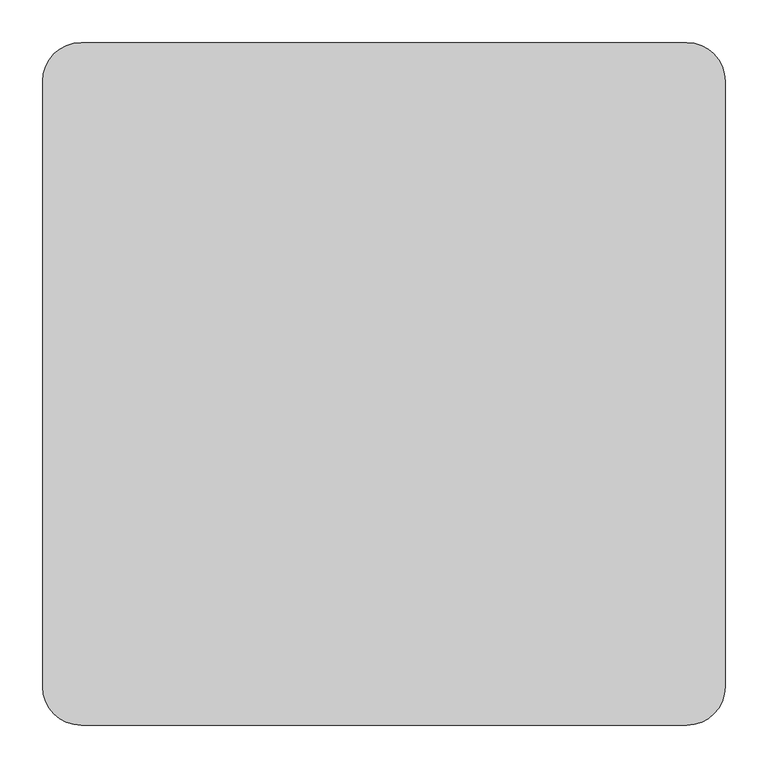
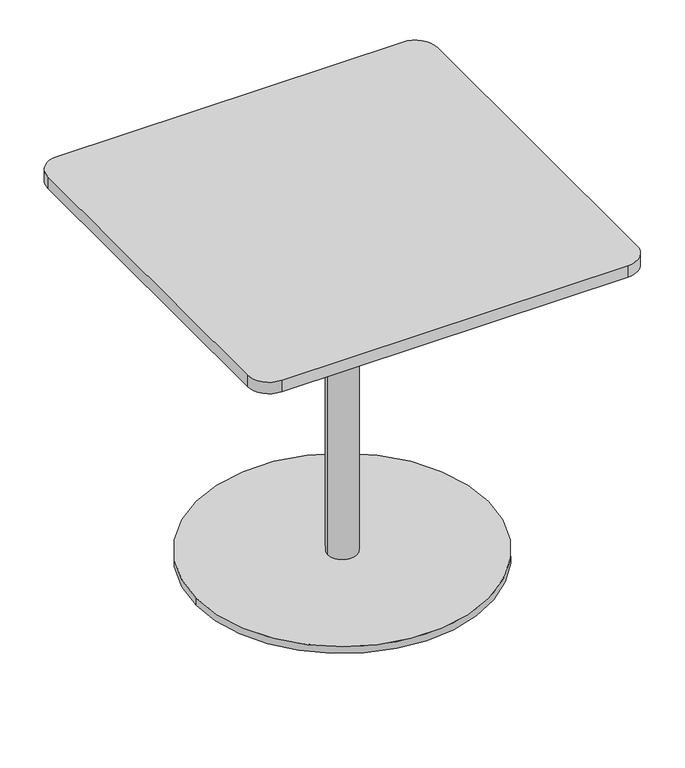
"""IFC4 building model written with IfcOpenShell, lengths in millimetres: furniture geometry, OPP-SH-S800 - Standard Height - 800 Square : OPP-SH-S800 - Standard Height - 800 Square."""

from ifc_helpers import new_model, si_unit, point, frame, frame_2d, origin, origin_with_axes, origin_2d, place, context, project, spatial, polyline, circle_curve, trimmed, segment, composite_curve, outline, extrude, source, transform, mapped, element, save


def furniture_cb25d1a6(model_context):
    return source(origin(), model_context, "Body", "SweptSolid", [
        extrude(outline(composite_curve([segment(trimmed(circle_curve(origin_2d(), 30.0), [point((-30.0, 0.0))], [point((30.0, 0.0))], False, "CARTESIAN"), True, "CONTINUOUS"), segment(trimmed(circle_curve(origin_2d(), 30.0), [point((30.0, 0.0))], [point((-30.0, 0.0))], False, "CARTESIAN"), True, "CONTINUOUS")], self_intersect=False)), frame((0.0, 0.0, 15.0), z_axis=(0.0, 0.0, 1.0), x_axis=(1.0, 0.0, 0.0)), (0.0, 0.0, 1.0), 710.0),
        extrude(outline(composite_curve([segment(trimmed(circle_curve(origin_2d(), 300.0), [point((-300.0, 0.0))], [point((300.0, 0.0))], False, "CARTESIAN"), True, "CONTINUOUS"), segment(trimmed(circle_curve(origin_2d(), 300.0), [point((300.0, 0.0))], [point((-300.0, 0.0))], False, "CARTESIAN"), True, "CONTINUOUS")], self_intersect=False)), origin_with_axes(), (0.0, 0.0, 1.0), 15.0),
        extrude(outline(composite_curve([segment(trimmed(circle_curve(frame_2d((355.0, 355.0)), 45.0), [point((355.0, 400.0))], [point((400.0, 355.0))], False, "CARTESIAN"), True, "CONTINUOUS"), segment(polyline([(400.0, 355.0), (400.0, -355.0)]), True, "CONTINUOUS"), segment(trimmed(circle_curve(frame_2d((355.0, -355.0)), 45.0), [point((400.0, -355.0))], [point((355.0, -400.0))], False, "CARTESIAN"), True, "CONTINUOUS"), segment(polyline([(355.0, -400.0), (-355.0, -400.0)]), True, "CONTINUOUS"), segment(trimmed(circle_curve(frame_2d((-355.0, -355.0)), 45.0), [point((-355.0, -400.0))], [point((-400.0, -355.0))], False, "CARTESIAN"), True, "CONTINUOUS"), segment(polyline([(-400.0, -355.0), (-400.0, 355.0)]), True, "CONTINUOUS"), segment(trimmed(circle_curve(frame_2d((-355.0, 355.0)), 45.0), [point((-400.0, 355.0))], [point((-355.0, 400.0))], False, "CARTESIAN"), True, "CONTINUOUS"), segment(polyline([(-355.0, 400.0), (355.0, 400.0)]), True, "CONTINUOUS")], self_intersect=False)), frame((0.0, 0.0, 725.0), z_axis=(0.0, 0.0, 1.0), x_axis=(1.0, 0.0, 0.0)), (0.0, 0.0, 1.0), 25.0),
    ])


if __name__ == "__main__":
    model = new_model("IFC4")
    model_context = context("Model", 3, world=origin())
    ifc_project = project(units=[si_unit("LENGTHUNIT", "METRE", prefix="MILLI")], contexts=[model_context])
    site = spatial("IfcSite", under=ifc_project)
    building = spatial("IfcBuilding", under=site)
    placement = place(None, origin())
    furniture_shape = furniture_cb25d1a6(model_context)
    element("IfcFurniture", 1, ObjectType="OPP-SH-S800 - Standard Height - 800 Square : OPP-SH-S800 - Standard Height - 800 Square", at=placement, inside=building, context=model_context, shape_type="MappedRepresentation", body=[
        mapped(furniture_shape, transform((0.0, 0.0, 0.0), x_axis=(1.0, 0.0, 0.0), y_axis=(0.0, 1.0, 0.0), z_axis=(0.0, 0.0, 1.0))),
    ])
    save(model, "model.ifc")
